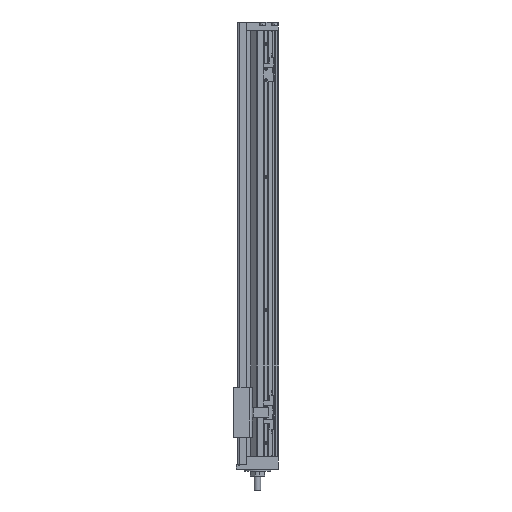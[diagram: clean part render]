
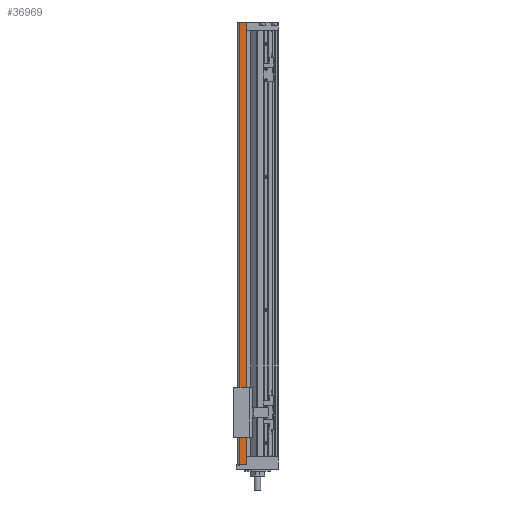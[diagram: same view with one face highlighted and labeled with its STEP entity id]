
A CAD part, left-side view. The second image highlights one B-rep face of the part: STEP entity #36969.
In plain terms, the highlighted planar face has unit normal (-1, 0, 0).
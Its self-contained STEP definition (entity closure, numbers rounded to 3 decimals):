
#5120 = VERTEX_POINT ( 'NONE', #43628 ) ;
#7433 = LINE ( 'NONE', #56552, #32702 ) ;
#9343 = EDGE_CURVE ( 'NONE', #44210, #43706, #18319, .T. ) ;
#14038 = DIRECTION ( 'NONE',  ( -1., 0., 0. ) ) ;
#17635 = VECTOR ( 'NONE', #29779, 1000. ) ;
#18319 = LINE ( 'NONE', #37788, #17635 ) ;
#18883 = CARTESIAN_POINT ( 'NONE',  ( 0., 2., 331. ) ) ;
#19117 = PLANE ( 'NONE',  #28170 ) ;
#20322 = VECTOR ( 'NONE', #50306, 1000. ) ;
#20401 = EDGE_CURVE ( 'NONE', #53919, #43706, #7433, .T. ) ;
#22025 = AXIS2_PLACEMENT_3D ( 'NONE', #18883, #14038, #36744 ) ;
#22190 = ORIENTED_EDGE ( 'NONE', *, *, #29768, .T. ) ;
#22597 = DIRECTION ( 'NONE',  ( 0., 0., 1. ) ) ;
#22916 = DIRECTION ( 'NONE',  ( 0., 0., 1. ) ) ;
#23375 = ORIENTED_EDGE ( 'NONE', *, *, #57703, .T. ) ;
#26579 = VERTEX_POINT ( 'NONE', #50691 ) ;
#28170 = AXIS2_PLACEMENT_3D ( 'NONE', #45604, #50493, #22916 ) ;
#28752 = CARTESIAN_POINT ( 'NONE',  ( 0., 11.7, -333. ) ) ;
#29768 = EDGE_CURVE ( 'NONE', #26579, #44210, #38555, .T. ) ;
#29779 = DIRECTION ( 'NONE',  ( 0., 0., -1. ) ) ;
#29942 = CARTESIAN_POINT ( 'NONE',  ( 0., 0., -331. ) ) ;
#32702 = VECTOR ( 'NONE', #34048, 1000. ) ;
#34048 = DIRECTION ( 'NONE',  ( 0., 1., 0. ) ) ;
#34227 = CIRCLE ( 'NONE', #22025, 2. ) ;
#35470 = CARTESIAN_POINT ( 'NONE',  ( 0., 2., -333. ) ) ;
#35958 = CARTESIAN_POINT ( 'NONE',  ( 0., 11.7, 333. ) ) ;
#36744 = DIRECTION ( 'NONE',  ( 0., 0., 1. ) ) ;
#36969 = ADVANCED_FACE ( 'NONE', ( #46954 ), #19117, .T. ) ;
#37788 = CARTESIAN_POINT ( 'NONE',  ( 0., 11.7, 333. ) ) ;
#38555 = LINE ( 'NONE', #50127, #20322 ) ;
#40953 = DIRECTION ( 'NONE',  ( -1., 0., 0. ) ) ;
#41193 = VERTEX_POINT ( 'NONE', #29942 ) ;
#41984 = ORIENTED_EDGE ( 'NONE', *, *, #20401, .F. ) ;
#43228 = EDGE_LOOP ( 'NONE', ( #41984, #53673, #47233, #23375, #22190, #48006 ) ) ;
#43628 = CARTESIAN_POINT ( 'NONE',  ( 0., 0., 331. ) ) ;
#43706 = VERTEX_POINT ( 'NONE', #28752 ) ;
#44210 = VERTEX_POINT ( 'NONE', #35958 ) ;
#44302 = VECTOR ( 'NONE', #53668, 1000. ) ;
#44715 = CIRCLE ( 'NONE', #48802, 2. ) ;
#45604 = CARTESIAN_POINT ( 'NONE',  ( 0., 0., 333. ) ) ;
#45650 = CARTESIAN_POINT ( 'NONE',  ( 0., 2., -331. ) ) ;
#46954 = FACE_OUTER_BOUND ( 'NONE', #43228, .T. ) ;
#47089 = LINE ( 'NONE', #53485, #44302 ) ;
#47233 = ORIENTED_EDGE ( 'NONE', *, *, #48630, .F. ) ;
#48006 = ORIENTED_EDGE ( 'NONE', *, *, #9343, .T. ) ;
#48630 = EDGE_CURVE ( 'NONE', #5120, #41193, #47089, .T. ) ;
#48802 = AXIS2_PLACEMENT_3D ( 'NONE', #45650, #40953, #22597 ) ;
#50127 = CARTESIAN_POINT ( 'NONE',  ( 0., 0., 333. ) ) ;
#50306 = DIRECTION ( 'NONE',  ( 0., 1., 0. ) ) ;
#50493 = DIRECTION ( 'NONE',  ( -1., 0., 0. ) ) ;
#50691 = CARTESIAN_POINT ( 'NONE',  ( 0., 2., 333. ) ) ;
#52259 = EDGE_CURVE ( 'NONE', #53919, #41193, #44715, .T. ) ;
#53485 = CARTESIAN_POINT ( 'NONE',  ( 0., 0., 333. ) ) ;
#53668 = DIRECTION ( 'NONE',  ( 0., 0., -1. ) ) ;
#53673 = ORIENTED_EDGE ( 'NONE', *, *, #52259, .T. ) ;
#53919 = VERTEX_POINT ( 'NONE', #35470 ) ;
#56552 = CARTESIAN_POINT ( 'NONE',  ( 0., 0., -333. ) ) ;
#57703 = EDGE_CURVE ( 'NONE', #5120, #26579, #34227, .T. ) ;
